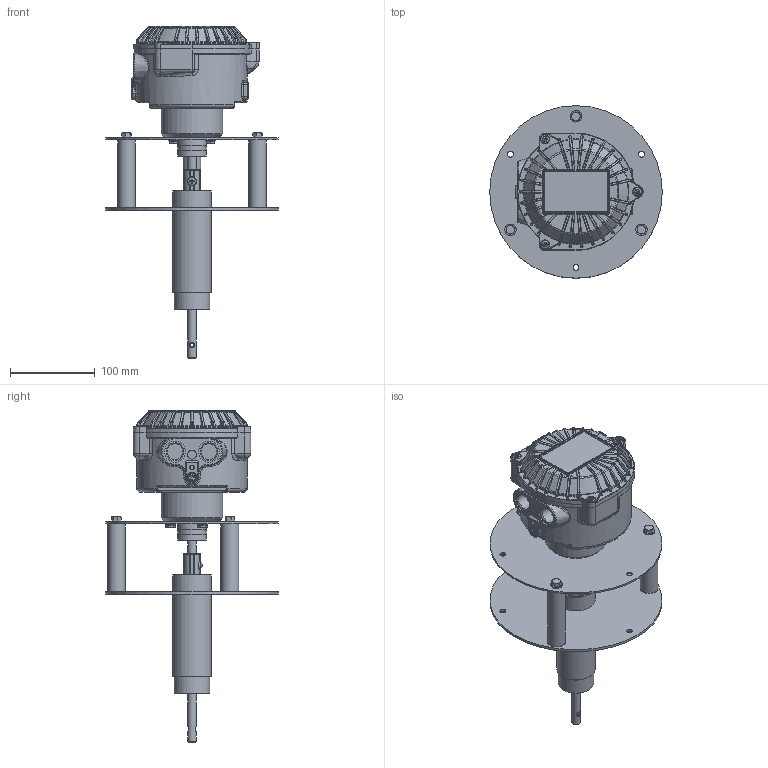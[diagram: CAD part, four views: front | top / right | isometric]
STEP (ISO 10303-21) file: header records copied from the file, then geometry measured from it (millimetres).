
FILE_DESCRIPTION(/* description */ (''),/* implementation_level */ '2;1');
FILE_NAME(/* name */ '\\Srvgest\camlogic\TECNICO\Inventor\Step\2_STEP\PFG05\PFG-05 ATFV.stp',/* time_stamp */ '2021-09-22T13:05:12+02:00',/* author */ ('nicola.ruozzi'),/* organization */ (''),/* preprocessor_version */ 'ST-DEVELOPER v18.1',/* originating_system */ 'Autodesk Inventor 2022',/* authorisation */ '');
FILE_SCHEMA (('AUTOMOTIVE_DESIGN { 1 0 10303 214 3 1 1 }'));
Products named in the file (1): PFG-05 ATFV
Bounding box: 203 x 203 x 390.7 mm (x, y, z)
Volume: 1871297.6 mm3; surface area: 256104.5 mm2
Topology: 1 solids, 1 shells, 2258 faces, 5266 edges, 3052 vertices
Faces by surface type: bspline 698, cylinder 484, plane 454, cone 260, torus 237, sphere 125
Full cylindrical faces by diameter (mm): 4.134 x1, 4.6 x1, 4.65 x1, 5 x3, 7 x6, 8.88 x3, 10 x5, 10.1 x1, 10.5 x1, 10.75 x1, 10.8 x3, 12 x3, 13.5 x3, 18.631 x2, 21 x3, 25 x2, 26.1 x1, 27.2 x1, 33 x1, 34 x2, 42 x1, 45 x2, 72.226 x1, 203 x2
Entity records: 87841 total; most frequent: CARTESIAN_POINT 38513, ORIENTED_EDGE 10502, DIRECTION 8952, EDGE_CURVE 5251, AXIS2_PLACEMENT_3D 3789, VERTEX_POINT 3052, EDGE_LOOP 2337, FACE_OUTER_BOUND 2258
